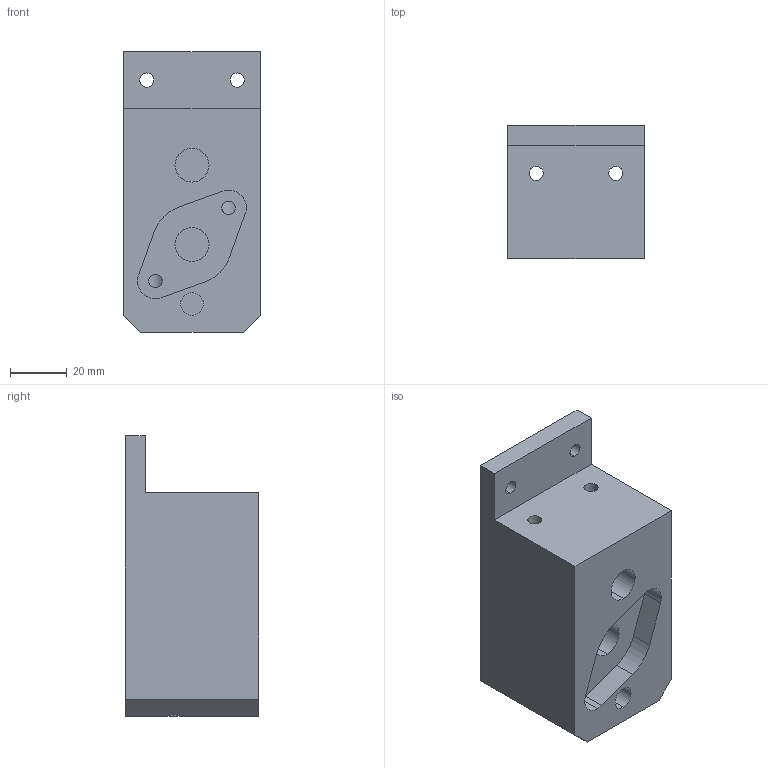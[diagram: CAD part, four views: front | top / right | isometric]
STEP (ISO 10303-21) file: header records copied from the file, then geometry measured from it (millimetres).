
FILE_DESCRIPTION (( 'STEP AP203' ), '1' );
FILE_NAME ('Stoika bearing.STEP', '2023-07-14T06:20:20', ( '' ), ( '' ), 'SwSTEP 2.0', 'SolidWorks 2014', '' );
FILE_SCHEMA (( 'CONFIG_CONTROL_DESIGN' ));
Length unit declared in the file: millimetre
Products named in the file (1): Stoika bearing
Bounding box: 48 x 47 x 99 mm (x, y, z)
Volume: 155131 mm3; surface area: 30859.3 mm2
Topology: 1 solids, 1 shells, 47 faces, 123 edges, 82 vertices
Faces by surface type: cylinder 27, plane 20
Entity records: 1682 total; most frequent: CARTESIAN_POINT 387, DIRECTION 261, ORIENTED_EDGE 246, EDGE_CURVE 123, AXIS2_PLACEMENT_3D 98, VERTEX_POINT 82, LINE 65, VECTOR 65
